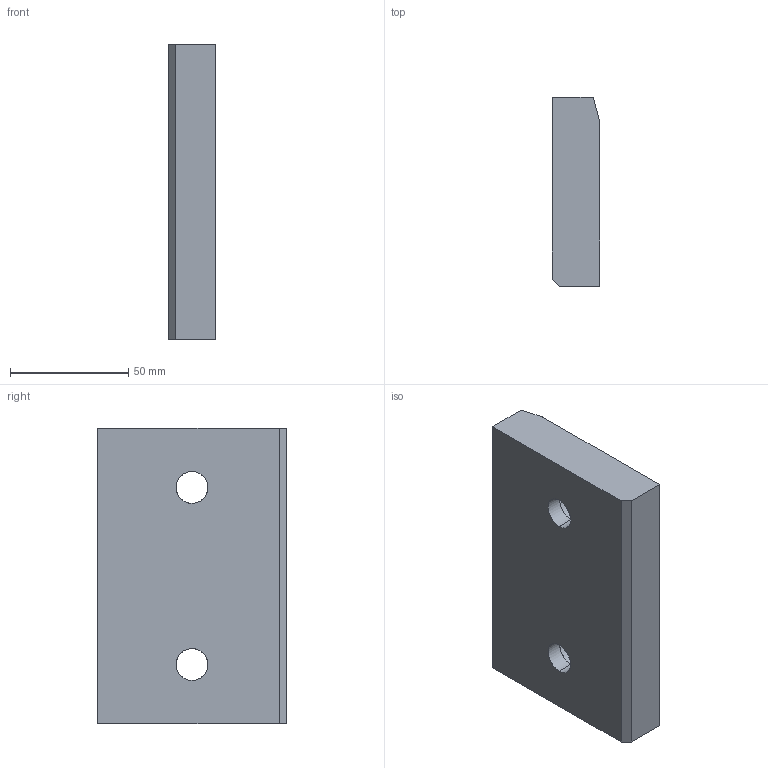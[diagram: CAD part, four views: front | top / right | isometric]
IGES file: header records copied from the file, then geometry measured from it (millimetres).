
Start section: START RECORD GO HERE.
Global section: file name: A915-125X80.igs; native system: DASSAULT SYSTEMES CATIA V5 R20 - www.3ds.com; preprocessor: CATIA Version 5 Release 20 ; author: Utente; organization: NB04-ASUS; date: 20200407.210658; units: millimetre
Bounding box: 20 x 80 x 125 mm (x, y, z)
Surface area: 29153.8 mm2 (no closed solid volume)
Topology: 0 solids, 0 shells, 23 faces, 106 edges, 106 vertices
Faces by surface type: revolution 13, extrusion 10
